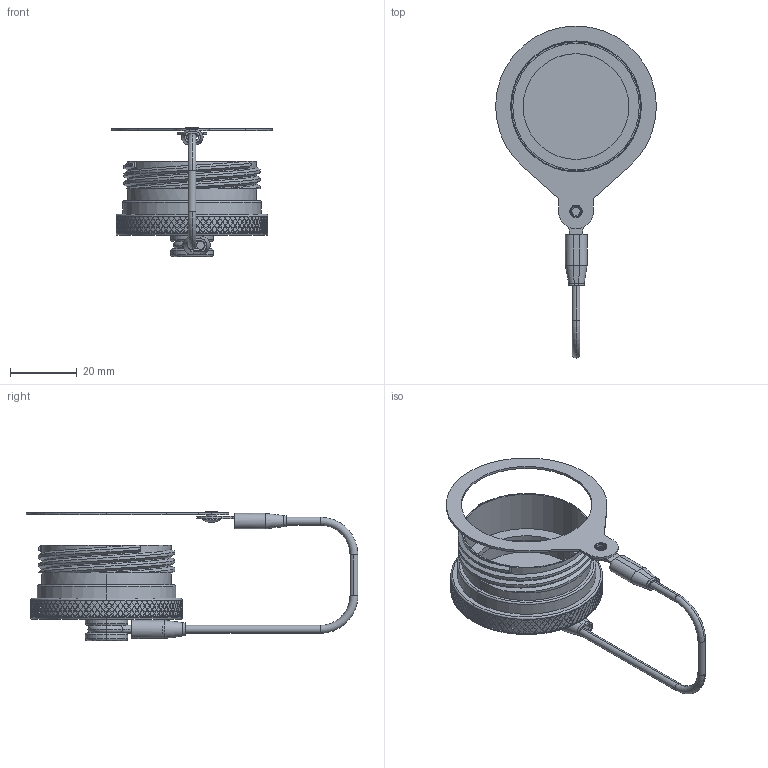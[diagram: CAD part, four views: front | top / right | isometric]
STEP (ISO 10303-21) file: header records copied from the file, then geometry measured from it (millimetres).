
FILE_DESCRIPTION (( 'STEP AP214' ), '1' );
FILE_NAME ('Q38DC-PRX-25-R0.STEP', '2026-04-22T18:47:32', ( '' ), ( '' ), 'SwSTEP 2.0', 'SolidWorks 2024', '' );
FILE_SCHEMA (( 'AUTOMOTIVE_DESIGN' ));
Length unit declared in the file: inch
Products named in the file (11): Q38DC-PRX-25-R0; HEAT SHRINK_HS-125-625S; Q38-XX29-P_25P; SW-XRXX_SW-SR25; LN-06-07-13_Q38DC-PRX-25 (Assembled); HEAT SHRINK_HS-250X625_SW-348; Q38-XX28-X_Q38-2528; Lanyard Assembly Q38_Q38DC-PRX-25 (Assembled); SW-347; SW-348; SW-349_SW-349
Assembly tree (10 placements, depth 3):
  Q38DC-PRX-25-R0
    Q38-XX28-X_Q38-2528
    Lanyard Assembly Q38_Q38DC-PRX-25 (Assembled)
      LN-06-07-13_Q38DC-PRX-25 (Assembled)
      SW-348
      HEAT SHRINK_HS-250X625_SW-348
      SW-347
      HEAT SHRINK_HS-125-625S
      SW-349_SW-349
      SW-XRXX_SW-SR25
    Q38-XX29-P_25P
Bounding box: 48.3 x 99.69 x 38.81 mm (x, y, z)
Volume: 13381 mm3; surface area: 15492.9 mm2
Topology: 9 solids, 9 shells, 2280 faces, 5471 edges, 3620 vertices
Faces by surface type: plane 1727, cylinder 502, torus 32, bspline 17, sphere 2
Entity records: 67822 total; most frequent: CARTESIAN_POINT 22696, ORIENTED_EDGE 10942, DIRECTION 7557, EDGE_CURVE 5471, VERTEX_POINT 3620, AXIS2_PLACEMENT_3D 2834, EDGE_LOOP 2705, ADVANCED_FACE 2280
